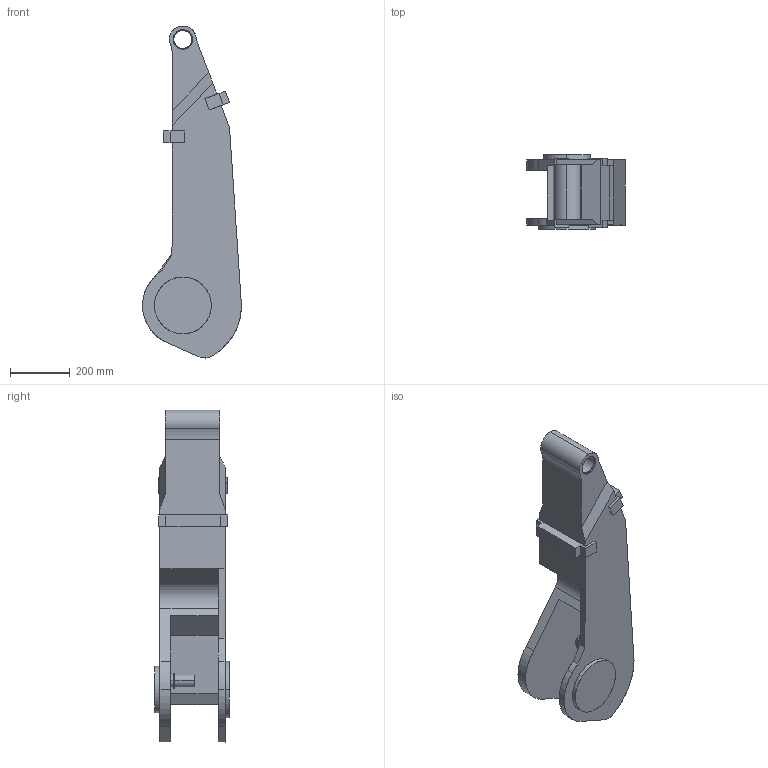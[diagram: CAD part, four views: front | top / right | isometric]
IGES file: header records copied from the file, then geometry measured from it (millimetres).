
Start section: SolidWorks IGES file using analytic representation for surfaces
Global section: file name: C:\Users\sefaane2\Downloads\Sparad modell IRB4400 10\Final SolidWorks CADSIM models and .txt file\Macro\Macro_IRC5_IGES_j\IRB4400_L10-253_IRC5_rev03_LINK02_CAD.IGS; native system: SolidWorks 2014; preprocessor: SolidWorks 2014; author: SEFAANE2; date: 161103.132459; units: millimetre
Bounding box: 331 x 248.5 x 1110.73 mm (x, y, z)
Surface area: 1208823.8 mm2 (no closed solid volume)
Topology: 0 solids, 0 shells, 83 faces, 1816 edges, 1816 vertices
Faces by surface type: bspline 52, revolution 31
